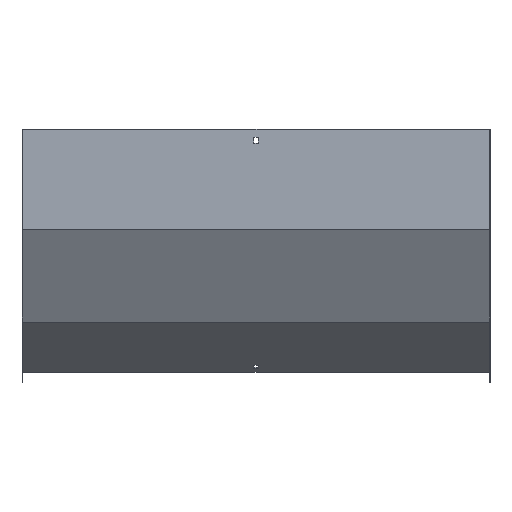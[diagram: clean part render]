
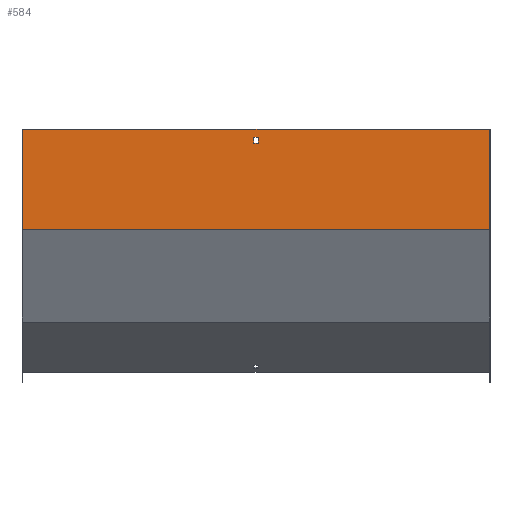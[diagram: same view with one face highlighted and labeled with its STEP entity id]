
A CAD part, front view. The second image highlights one B-rep face of the part: STEP entity #584.
In plain terms, the highlighted planar face has unit normal (0, -1, 0).
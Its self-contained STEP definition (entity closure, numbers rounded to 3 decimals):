
#26 = DIRECTION ( 'NONE',  ( 0., 0., -1. ) ) ;
#36 = VECTOR ( 'NONE', #443, 1000. ) ;
#38 = CARTESIAN_POINT ( 'NONE',  ( 351.5, -1.5, 0. ) ) ;
#43 = EDGE_CURVE ( 'NONE', #144, #250, #535, .T. ) ;
#46 = ORIENTED_EDGE ( 'NONE', *, *, #43, .F. ) ;
#50 = CARTESIAN_POINT ( 'NONE',  ( 350., -1.5, 0. ) ) ;
#55 = VECTOR ( 'NONE', #207, 1000. ) ;
#59 = VERTEX_POINT ( 'NONE', #153 ) ;
#61 = CARTESIAN_POINT ( 'NONE',  ( 351.5, -1.5, -150.102 ) ) ;
#82 = VERTEX_POINT ( 'NONE', #159 ) ;
#96 = VERTEX_POINT ( 'NONE', #671 ) ;
#100 = FACE_OUTER_BOUND ( 'NONE', #392, .T. ) ;
#120 = CARTESIAN_POINT ( 'NONE',  ( -350., -1.5, -150.102 ) ) ;
#137 = AXIS2_PLACEMENT_3D ( 'NONE', #38, #699, #301 ) ;
#144 = VERTEX_POINT ( 'NONE', #680 ) ;
#153 = CARTESIAN_POINT ( 'NONE',  ( 350., -1.5, -150.102 ) ) ;
#159 = CARTESIAN_POINT ( 'NONE',  ( -350., -1.5, 0. ) ) ;
#184 = CARTESIAN_POINT ( 'NONE',  ( -3.25, -1.5, -21. ) ) ;
#185 = LINE ( 'NONE', #575, #366 ) ;
#192 = EDGE_CURVE ( 'NONE', #293, #59, #276, .T. ) ;
#207 = DIRECTION ( 'NONE',  ( -1., 0., 0. ) ) ;
#222 = EDGE_CURVE ( 'NONE', #370, #96, #185, .T. ) ;
#250 = VERTEX_POINT ( 'NONE', #184 ) ;
#251 = VECTOR ( 'NONE', #542, 1000. ) ;
#276 = LINE ( 'NONE', #531, #251 ) ;
#293 = VERTEX_POINT ( 'NONE', #50 ) ;
#301 = DIRECTION ( 'NONE',  ( 0., 0., 1. ) ) ;
#325 = ORIENTED_EDGE ( 'NONE', *, *, #574, .F. ) ;
#328 = ORIENTED_EDGE ( 'NONE', *, *, #192, .F. ) ;
#333 = ORIENTED_EDGE ( 'NONE', *, *, #404, .T. ) ;
#339 = VECTOR ( 'NONE', #813, 1000. ) ;
#344 = EDGE_CURVE ( 'NONE', #96, #144, #744, .T. ) ;
#354 = CARTESIAN_POINT ( 'NONE',  ( -3.25, -1.5, 0. ) ) ;
#363 = PLANE ( 'NONE',  #137 ) ;
#366 = VECTOR ( 'NONE', #776, 1000. ) ;
#370 = VERTEX_POINT ( 'NONE', #668 ) ;
#385 = VECTOR ( 'NONE', #561, 1000. ) ;
#392 = EDGE_LOOP ( 'NONE', ( #333, #423, #328, #667 ) ) ;
#404 = EDGE_CURVE ( 'NONE', #82, #483, #646, .T. ) ;
#423 = ORIENTED_EDGE ( 'NONE', *, *, #652, .F. ) ;
#427 = FACE_BOUND ( 'NONE', #786, .T. ) ;
#443 = DIRECTION ( 'NONE',  ( 0., 0., -1. ) ) ;
#483 = VERTEX_POINT ( 'NONE', #120 ) ;
#524 = DIRECTION ( 'NONE',  ( -1., 0., 0. ) ) ;
#531 = CARTESIAN_POINT ( 'NONE',  ( 350., -1.5, 0. ) ) ;
#535 = LINE ( 'NONE', #354, #603 ) ;
#542 = DIRECTION ( 'NONE',  ( 0., 0., -1. ) ) ;
#561 = DIRECTION ( 'NONE',  ( -1., 0., 0. ) ) ;
#574 = EDGE_CURVE ( 'NONE', #250, #370, #820, .T. ) ;
#575 = CARTESIAN_POINT ( 'NONE',  ( 3.25, -1.5, 0. ) ) ;
#584 = ADVANCED_FACE ( 'NONE', ( #100, #427 ), #363, .F. ) ;
#603 = VECTOR ( 'NONE', #26, 1000. ) ;
#640 = CARTESIAN_POINT ( 'NONE',  ( 351.5, -1.5, 0. ) ) ;
#646 = LINE ( 'NONE', #847, #36 ) ;
#652 = EDGE_CURVE ( 'NONE', #59, #483, #737, .T. ) ;
#667 = ORIENTED_EDGE ( 'NONE', *, *, #741, .T. ) ;
#668 = CARTESIAN_POINT ( 'NONE',  ( 3.25, -1.5, -21. ) ) ;
#671 = CARTESIAN_POINT ( 'NONE',  ( 3.25, -1.5, -12. ) ) ;
#680 = CARTESIAN_POINT ( 'NONE',  ( -3.25, -1.5, -12. ) ) ;
#692 = CARTESIAN_POINT ( 'NONE',  ( 351.5, -1.5, -21. ) ) ;
#695 = LINE ( 'NONE', #640, #385 ) ;
#696 = ORIENTED_EDGE ( 'NONE', *, *, #344, .F. ) ;
#699 = DIRECTION ( 'NONE',  ( 0., 1., 0. ) ) ;
#737 = LINE ( 'NONE', #61, #55 ) ;
#741 = EDGE_CURVE ( 'NONE', #293, #82, #695, .T. ) ;
#744 = LINE ( 'NONE', #756, #789 ) ;
#756 = CARTESIAN_POINT ( 'NONE',  ( 351.5, -1.5, -12. ) ) ;
#765 = ORIENTED_EDGE ( 'NONE', *, *, #222, .F. ) ;
#776 = DIRECTION ( 'NONE',  ( 0., 0., 1. ) ) ;
#786 = EDGE_LOOP ( 'NONE', ( #765, #325, #46, #696 ) ) ;
#789 = VECTOR ( 'NONE', #524, 1000. ) ;
#813 = DIRECTION ( 'NONE',  ( 1., 0., 0. ) ) ;
#820 = LINE ( 'NONE', #692, #339 ) ;
#847 = CARTESIAN_POINT ( 'NONE',  ( -350., -1.5, 0. ) ) ;
